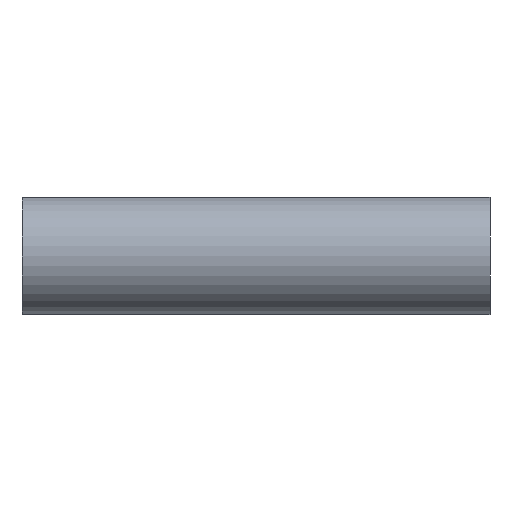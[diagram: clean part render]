
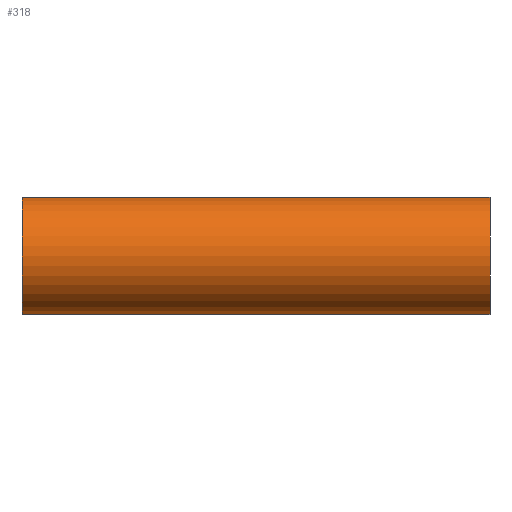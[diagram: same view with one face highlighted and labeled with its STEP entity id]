
A CAD part, front view. The second image highlights one B-rep face of the part: STEP entity #318.
In plain terms, the highlighted cylindrical face has radius 31.75 mm (diameter 63.5 mm), a partial arc.
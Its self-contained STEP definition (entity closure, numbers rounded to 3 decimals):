
#17 = VERTEX_POINT ( 'NONE', #381 ) ;
#22 = LINE ( 'NONE', #350, #447 ) ;
#24 = AXIS2_PLACEMENT_3D ( 'NONE', #189, #121, #379 ) ;
#27 = ORIENTED_EDGE ( 'NONE', *, *, #218, .T. ) ;
#33 = VERTEX_POINT ( 'NONE', #412 ) ;
#36 = CARTESIAN_POINT ( 'NONE',  ( -38.1, 0., 0. ) ) ;
#38 = DIRECTION ( 'NONE',  ( 1., 0., 0. ) ) ;
#40 = FACE_OUTER_BOUND ( 'NONE', #362, .T. ) ;
#43 = DIRECTION ( 'NONE',  ( 0., 0., -1. ) ) ;
#52 = EDGE_CURVE ( 'NONE', #17, #197, #257, .T. ) ;
#76 = CARTESIAN_POINT ( 'NONE',  ( -38.1, 0., -31.75 ) ) ;
#96 = CARTESIAN_POINT ( 'NONE',  ( -38.1, 0., -31.75 ) ) ;
#104 = VERTEX_POINT ( 'NONE', #96 ) ;
#117 = VECTOR ( 'NONE', #338, 1000. ) ;
#121 = DIRECTION ( 'NONE',  ( 1., 0., 0. ) ) ;
#140 = VECTOR ( 'NONE', #158, 1000. ) ;
#146 = CARTESIAN_POINT ( 'NONE',  ( 215.9, 0., 0. ) ) ;
#158 = DIRECTION ( 'NONE',  ( 1., 0., 0. ) ) ;
#168 = VECTOR ( 'NONE', #332, 1000. ) ;
#172 = ORIENTED_EDGE ( 'NONE', *, *, #196, .F. ) ;
#178 = DIRECTION ( 'NONE',  ( -1., 0., 0. ) ) ;
#182 = LINE ( 'NONE', #76, #140 ) ;
#189 = CARTESIAN_POINT ( 'NONE',  ( -38.1, 0., 0. ) ) ;
#196 = EDGE_CURVE ( 'NONE', #197, #222, #22, .T. ) ;
#197 = VERTEX_POINT ( 'NONE', #441 ) ;
#205 = VERTEX_POINT ( 'NONE', #286 ) ;
#218 = EDGE_CURVE ( 'NONE', #205, #222, #357, .T. ) ;
#220 = LINE ( 'NONE', #251, #117 ) ;
#222 = VERTEX_POINT ( 'NONE', #260 ) ;
#238 = ORIENTED_EDGE ( 'NONE', *, *, #315, .T. ) ;
#251 = CARTESIAN_POINT ( 'NONE',  ( -38.1, 0., -31.75 ) ) ;
#257 = LINE ( 'NONE', #417, #168 ) ;
#260 = CARTESIAN_POINT ( 'NONE',  ( 215.9, 0., 31.75 ) ) ;
#265 = CIRCLE ( 'NONE', #380, 31.75 ) ;
#286 = CARTESIAN_POINT ( 'NONE',  ( 215.9, 0., -31.75 ) ) ;
#294 = AXIS2_PLACEMENT_3D ( 'NONE', #146, #178, #398 ) ;
#298 = CYLINDRICAL_SURFACE ( 'NONE', #24, 31.75 ) ;
#307 = ORIENTED_EDGE ( 'NONE', *, *, #439, .T. ) ;
#310 = DIRECTION ( 'NONE',  ( 1., 0., 0. ) ) ;
#315 = EDGE_CURVE ( 'NONE', #33, #205, #182, .T. ) ;
#318 = ADVANCED_FACE ( 'NONE', ( #40 ), #298, .T. ) ;
#332 = DIRECTION ( 'NONE',  ( 1., 0., 0. ) ) ;
#338 = DIRECTION ( 'NONE',  ( 1., 0., 0. ) ) ;
#339 = EDGE_CURVE ( 'NONE', #104, #33, #220, .T. ) ;
#350 = CARTESIAN_POINT ( 'NONE',  ( -38.1, 0., 31.75 ) ) ;
#355 = ORIENTED_EDGE ( 'NONE', *, *, #339, .T. ) ;
#357 = CIRCLE ( 'NONE', #294, 31.75 ) ;
#362 = EDGE_LOOP ( 'NONE', ( #389, #307, #355, #238, #27, #172 ) ) ;
#379 = DIRECTION ( 'NONE',  ( 0., 0., -1. ) ) ;
#380 = AXIS2_PLACEMENT_3D ( 'NONE', #36, #38, #43 ) ;
#381 = CARTESIAN_POINT ( 'NONE',  ( -38.1, 0., 31.75 ) ) ;
#389 = ORIENTED_EDGE ( 'NONE', *, *, #52, .F. ) ;
#398 = DIRECTION ( 'NONE',  ( 0., 0., -1. ) ) ;
#412 = CARTESIAN_POINT ( 'NONE',  ( 0., 0., -31.75 ) ) ;
#417 = CARTESIAN_POINT ( 'NONE',  ( -38.1, 0., 31.75 ) ) ;
#439 = EDGE_CURVE ( 'NONE', #17, #104, #265, .T. ) ;
#441 = CARTESIAN_POINT ( 'NONE',  ( 0., 0., 31.75 ) ) ;
#447 = VECTOR ( 'NONE', #310, 1000. ) ;
